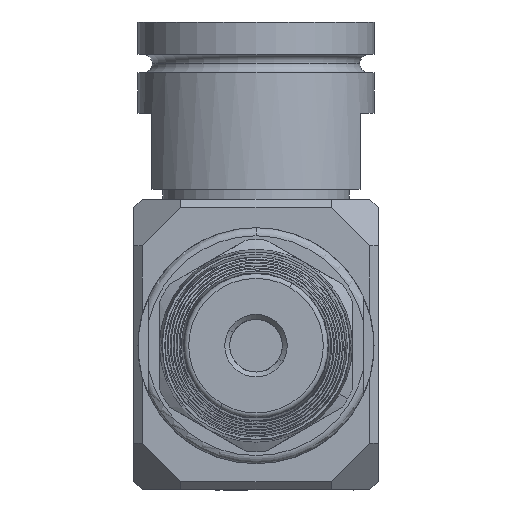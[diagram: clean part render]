
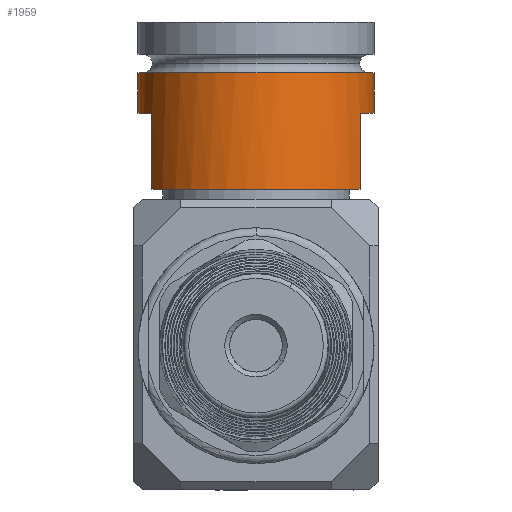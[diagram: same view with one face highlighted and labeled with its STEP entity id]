
A CAD part, front view. The second image highlights one B-rep face of the part: STEP entity #1959.
In plain terms, the highlighted cylindrical face has radius 14.77 mm (diameter 29.54 mm), a partial arc.
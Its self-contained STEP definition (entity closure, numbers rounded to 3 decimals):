
#81 = LINE ( 'NONE', #15030, #6987 ) ;
#239 = CARTESIAN_POINT ( 'NONE',  ( 0., 0., 8.458 ) ) ;
#368 = ORIENTED_EDGE ( 'NONE', *, *, #16545, .F. ) ;
#507 = CIRCLE ( 'NONE', #10399, 14.77 ) ;
#706 = AXIS2_PLACEMENT_3D ( 'NONE', #12157, #10667, #13306 ) ;
#1109 = CARTESIAN_POINT ( 'NONE',  ( 0., 0., 2.108 ) ) ;
#1436 = CIRCLE ( 'NONE', #7885, 14.77 ) ;
#1535 = CARTESIAN_POINT ( 'NONE',  ( -13.018, -6.979, -12.497 ) ) ;
#1550 = CARTESIAN_POINT ( 'NONE',  ( 14.77, 0., 8.458 ) ) ;
#1628 = ORIENTED_EDGE ( 'NONE', *, *, #9421, .T. ) ;
#1683 = LINE ( 'NONE', #10964, #14034 ) ;
#1959 = ADVANCED_FACE ( 'NONE', ( #6764 ), #6943, .T. ) ;
#1965 = EDGE_CURVE ( 'NONE', #4540, #14211, #8314, .T. ) ;
#2011 = CARTESIAN_POINT ( 'NONE',  ( 14.77, 0., -2.972 ) ) ;
#2015 = ORIENTED_EDGE ( 'NONE', *, *, #5945, .T. ) ;
#2439 = DIRECTION ( 'NONE',  ( 0., 0., -1. ) ) ;
#2649 = ORIENTED_EDGE ( 'NONE', *, *, #14910, .F. ) ;
#2814 = CARTESIAN_POINT ( 'NONE',  ( 13.017, -6.979, -2.972 ) ) ;
#3788 = ORIENTED_EDGE ( 'NONE', *, *, #16437, .T. ) ;
#4538 = DIRECTION ( 'NONE',  ( 0., 0., -1. ) ) ;
#4540 = VERTEX_POINT ( 'NONE', #7007 ) ;
#4854 = DIRECTION ( 'NONE',  ( -1., 0., 0. ) ) ;
#5468 = DIRECTION ( 'NONE',  ( 0., 0., -1. ) ) ;
#5945 = EDGE_CURVE ( 'NONE', #17097, #14211, #1683, .T. ) ;
#6039 = EDGE_CURVE ( 'NONE', #10730, #4540, #81, .T. ) ;
#6220 = CARTESIAN_POINT ( 'NONE',  ( -14.77, 0., -2.972 ) ) ;
#6764 = FACE_OUTER_BOUND ( 'NONE', #13315, .T. ) ;
#6924 = DIRECTION ( 'NONE',  ( 0., 0., -1. ) ) ;
#6943 = CYLINDRICAL_SURFACE ( 'NONE', #16799, 14.77 ) ;
#6987 = VECTOR ( 'NONE', #5468, 1000. ) ;
#7007 = CARTESIAN_POINT ( 'NONE',  ( 13.017, -6.979, -12.497 ) ) ;
#7061 = DIRECTION ( 'NONE',  ( 0., 0., -1. ) ) ;
#7100 = LINE ( 'NONE', #1550, #10702 ) ;
#7698 = CARTESIAN_POINT ( 'NONE',  ( 14.77, 0., 2.108 ) ) ;
#7704 = VERTEX_POINT ( 'NONE', #11465 ) ;
#7885 = AXIS2_PLACEMENT_3D ( 'NONE', #12660, #4538, #16570 ) ;
#8314 = CIRCLE ( 'NONE', #706, 14.77 ) ;
#8738 = DIRECTION ( 'NONE',  ( 0., 0., -1. ) ) ;
#9421 = EDGE_CURVE ( 'NONE', #7704, #10859, #14422, .T. ) ;
#9475 = VERTEX_POINT ( 'NONE', #7698 ) ;
#10399 = AXIS2_PLACEMENT_3D ( 'NONE', #15467, #8738, #4854 ) ;
#10633 = EDGE_CURVE ( 'NONE', #9475, #16164, #7100, .T. ) ;
#10667 = DIRECTION ( 'NONE',  ( 0., 0., -1. ) ) ;
#10702 = VECTOR ( 'NONE', #6924, 1000. ) ;
#10730 = VERTEX_POINT ( 'NONE', #2814 ) ;
#10744 = DIRECTION ( 'NONE',  ( 1., 0., 0. ) ) ;
#10859 = VERTEX_POINT ( 'NONE', #6220 ) ;
#10964 = CARTESIAN_POINT ( 'NONE',  ( -13.018, -6.979, -2.972 ) ) ;
#11465 = CARTESIAN_POINT ( 'NONE',  ( -14.77, 0., 2.108 ) ) ;
#12065 = CARTESIAN_POINT ( 'NONE',  ( -13.018, -6.979, -2.972 ) ) ;
#12157 = CARTESIAN_POINT ( 'NONE',  ( 0., 0., -12.497 ) ) ;
#12660 = CARTESIAN_POINT ( 'NONE',  ( 0., 0., -2.972 ) ) ;
#13243 = CARTESIAN_POINT ( 'NONE',  ( -14.77, 0., 8.458 ) ) ;
#13275 = AXIS2_PLACEMENT_3D ( 'NONE', #1109, #2439, #10744 ) ;
#13306 = DIRECTION ( 'NONE',  ( 1., 0., 0. ) ) ;
#13315 = EDGE_LOOP ( 'NONE', ( #3788, #1628, #2649, #2015, #14174, #15837, #368, #17045 ) ) ;
#13854 = CIRCLE ( 'NONE', #13275, 14.77 ) ;
#14034 = VECTOR ( 'NONE', #7061, 1000. ) ;
#14174 = ORIENTED_EDGE ( 'NONE', *, *, #1965, .F. ) ;
#14211 = VERTEX_POINT ( 'NONE', #1535 ) ;
#14329 = DIRECTION ( 'NONE',  ( 0., 0., -1. ) ) ;
#14422 = LINE ( 'NONE', #13243, #16678 ) ;
#14910 = EDGE_CURVE ( 'NONE', #17097, #10859, #507, .T. ) ;
#15030 = CARTESIAN_POINT ( 'NONE',  ( 13.017, -6.979, -2.972 ) ) ;
#15467 = CARTESIAN_POINT ( 'NONE',  ( 0., 0., -2.972 ) ) ;
#15837 = ORIENTED_EDGE ( 'NONE', *, *, #6039, .F. ) ;
#15975 = DIRECTION ( 'NONE',  ( 0., 0., -1. ) ) ;
#16164 = VERTEX_POINT ( 'NONE', #2011 ) ;
#16333 = DIRECTION ( 'NONE',  ( 1., 0., 0. ) ) ;
#16437 = EDGE_CURVE ( 'NONE', #9475, #7704, #13854, .T. ) ;
#16545 = EDGE_CURVE ( 'NONE', #16164, #10730, #1436, .T. ) ;
#16570 = DIRECTION ( 'NONE',  ( 1., 0., 0. ) ) ;
#16678 = VECTOR ( 'NONE', #14329, 1000. ) ;
#16799 = AXIS2_PLACEMENT_3D ( 'NONE', #239, #15975, #16333 ) ;
#17045 = ORIENTED_EDGE ( 'NONE', *, *, #10633, .F. ) ;
#17097 = VERTEX_POINT ( 'NONE', #12065 ) ;
